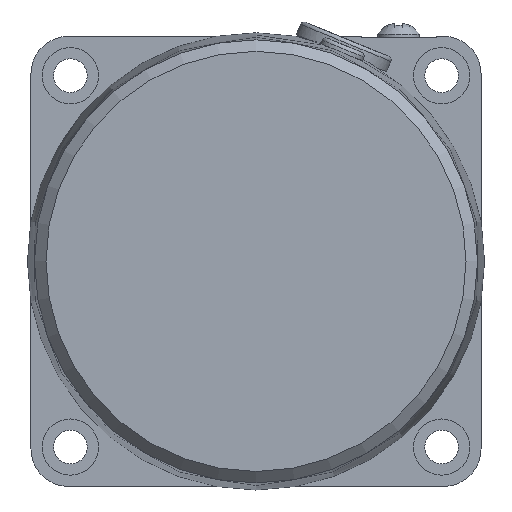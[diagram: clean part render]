
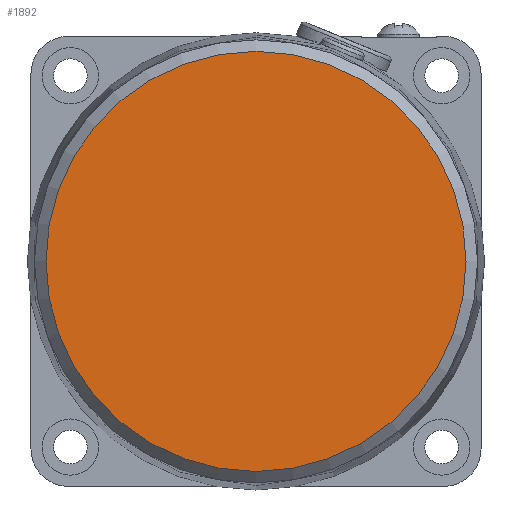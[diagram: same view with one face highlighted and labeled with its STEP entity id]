
A CAD part, left-side view. The second image highlights one B-rep face of the part: STEP entity #1892.
In plain terms, the highlighted planar face has unit normal (-1, 0, 0).
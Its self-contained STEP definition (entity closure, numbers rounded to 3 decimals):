
#289=PLANE('',#2020);
#443=FACE_OUTER_BOUND('',#568,.T.);
#568=EDGE_LOOP('',(#1263));
#720=CIRCLE('',#2021,28.);
#817=VERTEX_POINT('',#2935);
#998=EDGE_CURVE('',#817,#817,#720,.T.);
#1263=ORIENTED_EDGE('',*,*,#998,.F.);
#1892=ADVANCED_FACE('',(#443),#289,.F.);
#2020=AXIS2_PLACEMENT_3D('',#2934,#2248,#2249);
#2021=AXIS2_PLACEMENT_3D('',#2936,#2250,#2251);
#2248=DIRECTION('center_axis',(1.,0.,0.));
#2249=DIRECTION('ref_axis',(0.,0.,-1.));
#2250=DIRECTION('center_axis',(1.,0.,0.));
#2251=DIRECTION('ref_axis',(0.,0.,
-1.));
#2934=CARTESIAN_POINT('Origin',(-36.5,0.,0.));
#2935=CARTESIAN_POINT('',(-36.5,0.,28.));
#2936=CARTESIAN_POINT('Origin',(-36.5,0.,0.));
